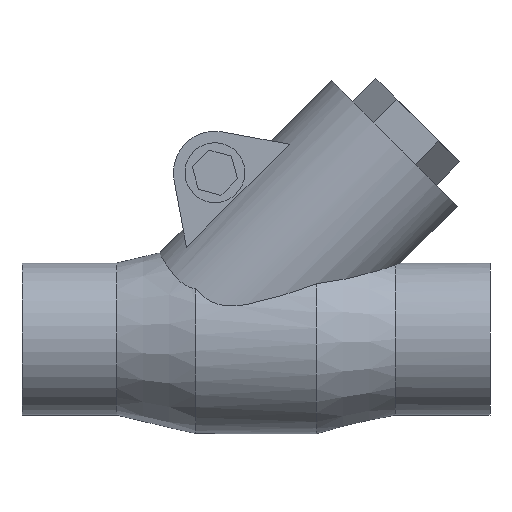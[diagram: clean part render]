
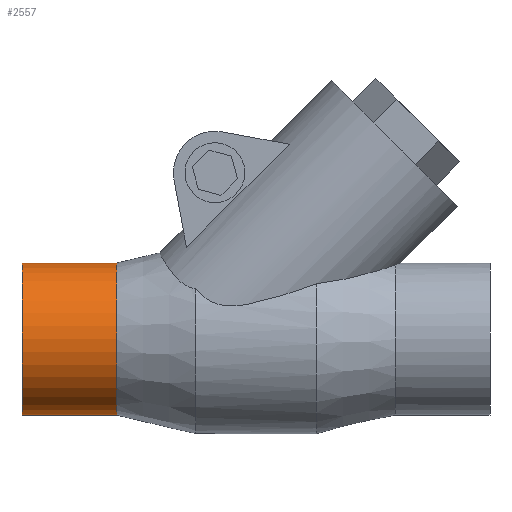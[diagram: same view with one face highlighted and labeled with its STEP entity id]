
A CAD part, front view. The second image highlights one B-rep face of the part: STEP entity #2557.
In plain terms, the highlighted cylindrical face has radius 0.664 mm (diameter 1.328 mm), a full revolution.
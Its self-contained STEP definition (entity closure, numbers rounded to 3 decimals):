
#274 = PLANE('',#275);
#275 = AXIS2_PLACEMENT_3D('',#276,#277,#278);
#276 = CARTESIAN_POINT('',(0.,0.,0.));
#277 = DIRECTION('',(-1.,0.,0.));
#278 = DIRECTION('',(0.,0.,1.));
#1102 = CONICAL_SURFACE('',#1103,0.746,0.233);
#1103 = AXIS2_PLACEMENT_3D('',#1104,#1105,#1106);
#1104 = CARTESIAN_POINT('',(1.172,0.,0.));
#1105 = DIRECTION('',(1.,0.,0.));
#1106 = DIRECTION('',(0.,0.,1.));
#2557 = ADVANCED_FACE('',(#2558),#2571,.T.);
#2558 = FACE_BOUND('',#2559,.T.);
#2559 = EDGE_LOOP('',(#2560,#2589,#2611,#2635,#2657));
#2560 = ORIENTED_EDGE('',*,*,#2561,.F.);
#2561 = EDGE_CURVE('',#2562,#2562,#2564,.T.);
#2562 = VERTEX_POINT('',#2563);
#2563 = CARTESIAN_POINT('',(0.,-0.664,0.));
#2564 = SURFACE_CURVE('',#2565,(#2570,#2582),.PCURVE_S1.);
#2565 = CIRCLE('',#2566,0.664);
#2566 = AXIS2_PLACEMENT_3D('',#2567,#2568,#2569);
#2567 = CARTESIAN_POINT('',(0.,0.,0.));
#2568 = DIRECTION('',(-1.,0.,0.));
#2569 = DIRECTION('',(0.,-1.,0.));
#2570 = PCURVE('',#2571,#2576);
#2571 = CYLINDRICAL_SURFACE('',#2572,0.664);
#2572 = AXIS2_PLACEMENT_3D('',#2573,#2574,#2575);
#2573 = CARTESIAN_POINT('',(0.,0.,0.));
#2574 = DIRECTION('',(1.,0.,0.));
#2575 = DIRECTION('',(0.,-1.,0.));
#2576 = DEFINITIONAL_REPRESENTATION('',(#2577),#2581);
#2577 = LINE('',#2578,#2579);
#2578 = CARTESIAN_POINT('',(6.283,0.));
#2579 = VECTOR('',#2580,1.);
#2580 = DIRECTION('',(-1.,0.));
#2581 = ( GEOMETRIC_REPRESENTATION_CONTEXT(2) 
PARAMETRIC_REPRESENTATION_CONTEXT() REPRESENTATION_CONTEXT('2D SPACE',''
  ) );
#2582 = PCURVE('',#274,#2583);
#2583 = DEFINITIONAL_REPRESENTATION('',(#2584),#2588);
#2584 = CIRCLE('',#2585,0.664);
#2585 = AXIS2_PLACEMENT_2D('',#2586,#2587);
#2586 = CARTESIAN_POINT('',(0.,0.));
#2587 = DIRECTION('',(0.,-1.));
#2588 = ( GEOMETRIC_REPRESENTATION_CONTEXT(2) 
PARAMETRIC_REPRESENTATION_CONTEXT() REPRESENTATION_CONTEXT('2D SPACE',''
  ) );
#2589 = ORIENTED_EDGE('',*,*,#2590,.T.);
#2590 = EDGE_CURVE('',#2562,#2591,#2593,.T.);
#2591 = VERTEX_POINT('',#2592);
#2592 = CARTESIAN_POINT('',(0.827,-0.664,0.));
#2593 = SEAM_CURVE('',#2594,(#2597,#2604),.PCURVE_S1.);
#2594 = B_SPLINE_CURVE_WITH_KNOTS('',1,(#2595,#2596),.UNSPECIFIED.,.F.,
  .F.,(2,2),(0.,0.827),.PIECEWISE_BEZIER_KNOTS.);
#2595 = CARTESIAN_POINT('',(0.,-0.664,0.));
#2596 = CARTESIAN_POINT('',(0.827,-0.664,0.));
#2597 = PCURVE('',#2571,#2598);
#2598 = DEFINITIONAL_REPRESENTATION('',(#2599),#2603);
#2599 = LINE('',#2600,#2601);
#2600 = CARTESIAN_POINT('',(6.283,0.));
#2601 = VECTOR('',#2602,1.);
#2602 = DIRECTION('',(0.,1.));
#2603 = ( GEOMETRIC_REPRESENTATION_CONTEXT(2) 
PARAMETRIC_REPRESENTATION_CONTEXT() REPRESENTATION_CONTEXT('2D SPACE',''
  ) );
#2604 = PCURVE('',#2571,#2605);
#2605 = DEFINITIONAL_REPRESENTATION('',(#2606),#2610);
#2606 = LINE('',#2607,#2608);
#2607 = CARTESIAN_POINT('',(0.,0.));
#2608 = VECTOR('',#2609,1.);
#2609 = DIRECTION('',(0.,1.));
#2610 = ( GEOMETRIC_REPRESENTATION_CONTEXT(2) 
PARAMETRIC_REPRESENTATION_CONTEXT() REPRESENTATION_CONTEXT('2D SPACE',''
  ) );
#2611 = ORIENTED_EDGE('',*,*,#2612,.F.);
#2612 = EDGE_CURVE('',#2613,#2591,#2615,.T.);
#2613 = VERTEX_POINT('',#2614);
#2614 = CARTESIAN_POINT('',(0.827,0.,0.664));
#2615 = SURFACE_CURVE('',#2616,(#2621,#2628),.PCURVE_S1.);
#2616 = CIRCLE('',#2617,0.664);
#2617 = AXIS2_PLACEMENT_3D('',#2618,#2619,#2620);
#2618 = CARTESIAN_POINT('',(0.827,0.,0.));
#2619 = DIRECTION('',(1.,0.,-0.));
#2620 = DIRECTION('',(0.,0.,1.));
#2621 = PCURVE('',#2571,#2622);
#2622 = DEFINITIONAL_REPRESENTATION('',(#2623),#2627);
#2623 = LINE('',#2624,#2625);
#2624 = CARTESIAN_POINT('',(4.712,0.827));
#2625 = VECTOR('',#2626,1.);
#2626 = DIRECTION('',(1.,0.));
#2627 = ( GEOMETRIC_REPRESENTATION_CONTEXT(2) 
PARAMETRIC_REPRESENTATION_CONTEXT() REPRESENTATION_CONTEXT('2D SPACE',''
  ) );
#2628 = PCURVE('',#1102,#2629);
#2629 = DEFINITIONAL_REPRESENTATION('',(#2630),#2634);
#2630 = LINE('',#2631,#2632);
#2631 = CARTESIAN_POINT('',(0.,-0.345));
#2632 = VECTOR('',#2633,1.);
#2633 = DIRECTION('',(1.,0.));
#2634 = ( GEOMETRIC_REPRESENTATION_CONTEXT(2) 
PARAMETRIC_REPRESENTATION_CONTEXT() REPRESENTATION_CONTEXT('2D SPACE',''
  ) );
#2635 = ORIENTED_EDGE('',*,*,#2636,.F.);
#2636 = EDGE_CURVE('',#2591,#2613,#2637,.T.);
#2637 = SURFACE_CURVE('',#2638,(#2643,#2650),.PCURVE_S1.);
#2638 = CIRCLE('',#2639,0.664);
#2639 = AXIS2_PLACEMENT_3D('',#2640,#2641,#2642);
#2640 = CARTESIAN_POINT('',(0.827,0.,0.));
#2641 = DIRECTION('',(1.,0.,-0.));
#2642 = DIRECTION('',(0.,0.,1.));
#2643 = PCURVE('',#2571,#2644);
#2644 = DEFINITIONAL_REPRESENTATION('',(#2645),#2649);
#2645 = LINE('',#2646,#2647);
#2646 = CARTESIAN_POINT('',(-1.571,0.827));
#2647 = VECTOR('',#2648,1.);
#2648 = DIRECTION('',(1.,0.));
#2649 = ( GEOMETRIC_REPRESENTATION_CONTEXT(2) 
PARAMETRIC_REPRESENTATION_CONTEXT() REPRESENTATION_CONTEXT('2D SPACE',''
  ) );
#2650 = PCURVE('',#1102,#2651);
#2651 = DEFINITIONAL_REPRESENTATION('',(#2652),#2656);
#2652 = LINE('',#2653,#2654);
#2653 = CARTESIAN_POINT('',(0.,-0.345));
#2654 = VECTOR('',#2655,1.);
#2655 = DIRECTION('',(1.,0.));
#2656 = ( GEOMETRIC_REPRESENTATION_CONTEXT(2) 
PARAMETRIC_REPRESENTATION_CONTEXT() REPRESENTATION_CONTEXT('2D SPACE',''
  ) );
#2657 = ORIENTED_EDGE('',*,*,#2590,.F.);
